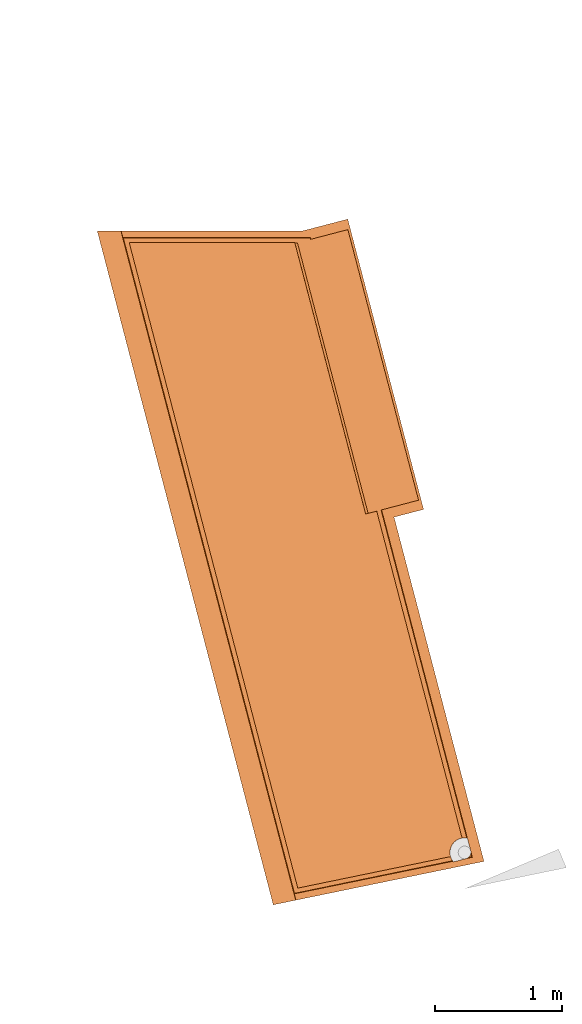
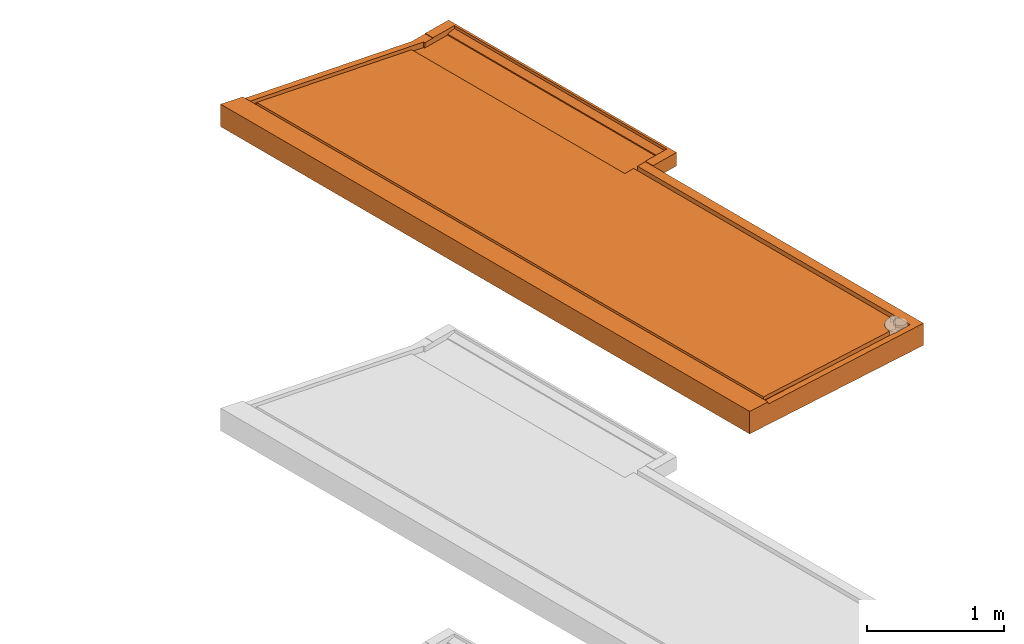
# One storey, part 21 of 31: 1 proxy, 1 element without a shape of its own.
"""IFC2X3 building model written with IfcOpenShell, lengths in centimetres."""

from ifc_helpers import new_model, entity, si_unit, converted_unit, derived_unit, direction, frame, origin, place, context, subcontext, project, spatial, faceted_brep, source, transform, mapped, material, type_object, type_shapes, element, aggregate, save


model = new_model("IFC2X3")

# Units and contexts
model_context = context("Model", 3, precision=0.001, world=origin(), true_north=direction((6.12303176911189e-17, 1.0)))
body_context = subcontext(model_context, "Body", "Model", "MODEL_VIEW")
ifc_project = project(units=[si_unit("LENGTHUNIT", "METRE", prefix="CENTI"), si_unit("AREAUNIT", "SQUARE_METRE"), si_unit("VOLUMEUNIT", "CUBIC_METRE"), converted_unit("PLANEANGLEUNIT", "DEGREE", entity("IfcRatioMeasure", 0.0174532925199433), si_unit("PLANEANGLEUNIT", "RADIAN"), dimensions=[0, 0, 0, 0, 0, 0, 0]), si_unit("MASSUNIT", "GRAM", prefix="KILO"), derived_unit("MASSDENSITYUNIT", [(si_unit("MASSUNIT", "GRAM", prefix="KILO"), 1), (si_unit("LENGTHUNIT", "METRE"), -3)]), si_unit("TIMEUNIT", "SECOND"), si_unit("FREQUENCYUNIT", "HERTZ"), si_unit("THERMODYNAMICTEMPERATUREUNIT", "DEGREE_CELSIUS"), derived_unit("THERMALTRANSMITTANCEUNIT", [(si_unit("MASSUNIT", "GRAM", prefix="KILO"), 1), (si_unit("THERMODYNAMICTEMPERATUREUNIT", "KELVIN"), -1), (si_unit("TIMEUNIT", "SECOND"), -3)]), derived_unit("VOLUMETRICFLOWRATEUNIT", [(si_unit("LENGTHUNIT", "METRE"), 3), (si_unit("TIMEUNIT", "SECOND"), -1)]), si_unit("ELECTRICCURRENTUNIT", "AMPERE"), si_unit("ELECTRICVOLTAGEUNIT", "VOLT"), si_unit("POWERUNIT", "WATT"), si_unit("FORCEUNIT", "NEWTON"), si_unit("ILLUMINANCEUNIT", "LUX"), si_unit("LUMINOUSFLUXUNIT", "LUMEN"), si_unit("LUMINOUSINTENSITYUNIT", "CANDELA"), derived_unit("USERDEFINED", [(si_unit("MASSUNIT", "GRAM", prefix="KILO"), -1), (si_unit("LENGTHUNIT", "METRE"), -2), (si_unit("TIMEUNIT", "SECOND"), 3), (si_unit("LUMINOUSFLUXUNIT", "LUMEN"), 1)]), derived_unit("LINEARVELOCITYUNIT", [(si_unit("LENGTHUNIT", "METRE"), 1), (si_unit("TIMEUNIT", "SECOND"), -1)]), si_unit("PRESSUREUNIT", "PASCAL"), derived_unit("USERDEFINED", [(si_unit("LENGTHUNIT", "METRE"), -2), (si_unit("MASSUNIT", "GRAM", prefix="KILO"), 1), (si_unit("TIMEUNIT", "SECOND"), -2)])], contexts=[model_context])

# Site, building, storey
site_placement = place(None, origin())
site = spatial("IfcSite", under=ifc_project, at=site_placement, Name="Default", CompositionType="ELEMENT")
building_placement = place(site_placement, origin())
building = spatial("IfcBuilding", under=site, at=building_placement, Name="CAGE 03", CompositionType="ELEMENT")
storey_placement = place(building_placement, frame((0.0, 0.0, -400.0)))
storey = spatial("IfcBuildingStorey", under=building, at=storey_placement, Name="±0.00", CompositionType="ELEMENT", Elevation=-400.0)

# Assembly, proxy
assembly_placement = place(storey_placement, origin())
assembly = element("IfcElementAssembly", 1, at=assembly_placement, inside=storey, Name="Assemblage Modèles génériques:BALCON TYPE 08", ObjectType="Assemblage Modèles génériques:BALCON TYPE 08", AssemblyPlace="NOTDEFINED", PredefinedType="USERDEFINED")
ifc_material = material(Name="Béton, panneaux préfa 30/37")
building_element_proxy_type = type_object("IfcBuildingElementProxyType", Name="balcon préfa type 08", PredefinedType="NOTDEFINED", material=ifc_material)
shared_shape = source(origin(), body_context, "Body", "Brep", [
    faceted_brep([(20.4758153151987, 524.485602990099, 15.0), (155.098310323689, 8.99505016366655, 15.0), (279.438582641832, 34.622077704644, 15.0), (278.506028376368, 36.2117170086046, 15.0), (277.839385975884, 37.9299132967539, 15.0), (157.690873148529, 13.1668241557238, 15.0), (25.0882306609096, 520.923046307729, 15.0), (155.314060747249, 520.923046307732, 15.0), (155.482713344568, 520.277249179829, 15.0), (157.417813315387, 520.78260855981, 15.0), (213.007345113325, 307.921611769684, 15.0), (219.780195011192, 309.690369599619, 15.0), (286.93227961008, 52.5545528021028, 15.0), (288.768321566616, 52.7168337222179, 15.0), (290.606706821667, 52.5836991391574, 15.0), (223.22714667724, 310.590555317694, 15.0), (245.904044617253, 316.512721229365, 15.0), (190.314512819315, 529.373718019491, 15.0), (167.637614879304, 523.45155210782, 15.0), (167.367568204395, 524.485602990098, 15.0), (293.790835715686, 40.3911724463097, 15.0), (293.414285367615, 39.1546032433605, 15.0), (292.733315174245, 38.0558889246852, 15.0), (291.793438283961, 37.1684628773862, 15.0), (294.487454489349, 37.7237103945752, 15.0), (155.508647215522, 520.284021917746, 16.9000788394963), (155.484457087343, 520.277704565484, 19.3999538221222), (211.073988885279, 307.416707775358, 19.3999538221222), (211.09817901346, 307.42302512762, 16.9000788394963), (245.904044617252, 316.512721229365, 15.9713250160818), (223.610570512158, 310.690688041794, 19.5295380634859), (229.455694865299, 312.217166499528, 19.589956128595), (231.390794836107, 312.722525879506, 19.6099582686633), (231.390794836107, 312.722525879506, 20.0), (252.676894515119, 318.2814790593, 20.0), (252.676894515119, 318.2814790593, 17.4999999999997), (219.78019501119, 309.690369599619, 19.4899454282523), (213.007345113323, 307.921611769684, 16.9198129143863), (197.087362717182, 531.142475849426, 17.4999999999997), (197.087362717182, 531.142475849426, 20.0), (175.801263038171, 525.583522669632, 20.0), (175.801263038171, 525.583522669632, 19.6099582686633), (173.866163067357, 525.078163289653, 19.5899561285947), (168.021038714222, 523.551684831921, 19.5295380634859), (190.314512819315, 529.373718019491, 15.9713250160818), (157.690873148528, 13.1668241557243, 18.1398009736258), (277.83938597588, 37.9299132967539, 19.3650002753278), (291.500713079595, 36.9717037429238, 16.5272701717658), (291.194845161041, 36.7960705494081, 17.7877166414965), (290.877356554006, 36.642437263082, 18.7750673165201), (290.549827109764, 36.5115683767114, 19.4844090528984), (294.976378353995, 37.4198670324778, 19.5295380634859), (154.900847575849, 8.67730667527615, 18.1014578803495), (279.68578450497, 34.2823396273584, 19.3736493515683), (279.560631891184, 34.4510796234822, 17.1958838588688), (3.88407743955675, 526.923046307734, 0.0), (3.88407743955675, 526.923046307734, 1.0), (140.574776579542, 3.51301694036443, 1.0), (140.574776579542, 3.51301694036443, 0.0), (5.1787699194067, 525.923046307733, 1.46630765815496), (141.302501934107, 4.68402258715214, 1.46630765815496), (157.417813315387, 520.78260855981, 16.9198129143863), (20.1245103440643, 524.756945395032, 18.1014578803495), (18.7753616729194, 529.923046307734, 18.1014578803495), (18.6036900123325, 529.923046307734, 20.0), (156.045092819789, 3.63845538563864, 20.0), (156.207996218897, 3.67203042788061, 18.1014578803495), (5.1787699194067, 525.923046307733, 0.0), (141.302501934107, 4.68402258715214, 0.0), (0.0, 529.923046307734, 20.0), (0.0, 529.923046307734, 0.0), (138.391600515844, 0.0, 0.0), (138.391600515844, 0.0, 20.0), (286.932279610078, 52.5545528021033, 19.4899454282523), (173.779825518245, 533.32392255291, 20.0), (174.406824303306, 530.923046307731, 20.0), (233.412232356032, 304.982125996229, 20.0), (248.893032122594, 309.025001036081, 20.0), (256.633432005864, 311.046438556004, 20.0), (197.001025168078, 539.388235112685, 20.0), (189.260625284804, 537.366797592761, 20.0), (197.001025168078, 539.388235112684, 8.0), (256.633432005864, 311.046438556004, 8.0), (189.260625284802, 537.36679759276, 8.0), (248.893032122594, 309.025001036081, 8.0), (233.412232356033, 304.982125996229, 8.0), (174.406824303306, 530.923046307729, 8.0), (173.779825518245, 533.32392255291, 8.0), (233.412232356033, 304.982125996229, 19.6099582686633), (304.138278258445, 34.1610533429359, 19.6099582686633), (304.138278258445, 34.1610533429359, 0.0), (303.379205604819, 37.0676610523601, 0.0), (303.379205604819, 37.0676610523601, 1.0), (303.126181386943, 38.0365302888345, 1.46630765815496), (303.126181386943, 38.0365302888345, 0.0), (174.790544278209, 529.453722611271, 0.0), (174.790544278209, 529.453722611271, 1.46630765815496), (174.537864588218, 530.421272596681, 1.0), (174.537864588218, 530.421272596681, 0.0), (174.406824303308, 530.923046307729, 0.0), (173.779825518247, 533.32392255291, 0.0), (172.602764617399, 529.915913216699, 0.0), (161.142609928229, 526.923046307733, 0.0), (301.417706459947, 36.6633882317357, 0.0), (302.176779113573, 33.7567805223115, 0.0), (160.75733937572, 529.923046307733, 0.0), (287.596140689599, 46.0549454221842, 0.0), (172.85544430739, 528.94836323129, 0.0), (288.891291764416, 46.217094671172, 0.0), (290.184278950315, 46.0385090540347, 0.0), (291.386987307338, 45.5313588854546, 0.0), (292.417454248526, 44.7302056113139, 0.0), (293.205455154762, 43.6896465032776, 0.0), (293.69728906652, 42.4805939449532, 0.0), (301.164682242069, 37.6322574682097, 0.0), (293.859438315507, 41.1854428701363, 0.0), (293.680852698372, 39.8924556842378, 0.0), (293.17370252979, 38.6897473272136, 0.0), (292.372549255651, 37.6592803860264, 0.0), (291.331990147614, 36.8712794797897, 0.0), (290.12293758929, 36.3794455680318, 0.0), (288.827786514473, 36.217296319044, 0.0), (287.534799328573, 36.3958819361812, 0.0), (286.332090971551, 36.9030321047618, 0.0), (285.301624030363, 37.704185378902, 0.0), (284.513623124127, 38.7447444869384, 0.0), (284.021789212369, 39.9537970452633, 0.0), (283.859639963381, 41.2489481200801, 0.0), (284.038225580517, 42.5419353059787, 0.0), (284.545375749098, 43.7446436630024, 0.0), (285.346529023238, 44.77511060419, 0.0), (286.387088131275, 45.5631115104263, 0.0), (161.271033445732, 525.923046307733, 0.0), (25.0882306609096, 520.923046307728, 18.1398009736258), (277.372859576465, 40.6638487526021, 19.3673947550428), (277.574432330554, 43.429968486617, 19.3763354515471), (278.432380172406, 46.0673868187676, 19.3913023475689), (279.896802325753, 48.4227037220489, 19.4114249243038), (281.882523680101, 50.3589270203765, 19.4355327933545), (284.274048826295, 51.7634402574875, 19.4622237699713), (155.314060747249, 520.923046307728, 19.3999357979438), (167.673651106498, 524.881886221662, 19.5295380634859), (174.406824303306, 530.923046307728, 19.6099582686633), (173.779825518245, 533.32392255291, 19.6099582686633), (160.75733937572, 529.923046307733, 19.4753514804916), (291.035678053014, 52.5094237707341, 19.5295380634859), (291.058092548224, 52.5050811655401, 19.5297439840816), (291.080498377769, 52.5006940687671, 19.5299497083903), (293.69728906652, 42.4805939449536, 19.5299497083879), (293.768377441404, 42.1676198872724, 19.5298466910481), (293.819240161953, 41.8507298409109, 19.5295380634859), (290.337859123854, 36.4407355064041, 19.4821789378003), (290.122937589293, 36.379445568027, 19.4799443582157), (280.102837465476, 33.7626548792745, 19.3763717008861), (279.890546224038, 34.0194759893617, 19.3749664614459), (302.176779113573, 33.7567805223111, 19.589956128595), (290.714125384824, 52.5661453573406, 16.1372598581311), (290.821543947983, 52.5485915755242, 17.2745197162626), (290.928611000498, 52.5290076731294, 18.4020288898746), (290.982144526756, 52.5192157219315, 18.9657834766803), (291.008911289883, 52.5143197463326, 19.2476607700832), (293.852306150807, 41.4860403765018, 18.8419447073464), (293.858592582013, 41.1199089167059, 17.8540276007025), (293.838065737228, 40.7542992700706, 16.5710856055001), (301.417706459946, 36.6633882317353, 1.0), (301.164682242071, 37.6322574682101, 1.46630765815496), (161.142609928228, 526.923046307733, 1.0), (161.271033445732, 525.923046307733, 1.46630765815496), (172.602764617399, 529.9159132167, 1.0), (172.85544430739, 528.94836323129, 1.46630765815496), (288.253873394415, 52.701235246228, 7.69999999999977), (285.464023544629, 52.2044824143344, 7.69999999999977), (282.880344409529, 51.0405976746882, 7.69999999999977), (280.659713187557, 49.2802503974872, 7.69999999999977), (278.936963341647, 47.030326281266, 7.69999999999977), (277.816697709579, 44.4274374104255, 7.69999999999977), (277.366937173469, 41.629627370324, 7.69999999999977), (277.614990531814, 38.8067750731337, 7.69999999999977), (278.545796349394, 36.1302799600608, 7.69999999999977), (280.102837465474, 33.7626548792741, 7.69999999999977), (290.122937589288, 36.3794455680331, 7.69999999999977), (288.827786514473, 36.2172963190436, 7.69999999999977), (287.534799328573, 36.3958819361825, 7.69999999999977), (286.332090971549, 36.9030321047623, 7.69999999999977), (285.301624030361, 37.7041853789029, 7.69999999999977), (284.513623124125, 38.7447444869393, 7.69999999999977), (284.021789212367, 39.9537970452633, 7.69999999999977), (283.859639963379, 41.2489481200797, 7.69999999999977), (284.038225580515, 42.5419353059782, 7.69999999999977), (284.545375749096, 43.744643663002, 7.69999999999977), (285.346529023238, 44.7751106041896, 7.69999999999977), (286.387088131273, 45.5631115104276, 7.69999999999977), (287.596140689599, 46.0549454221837, 7.69999999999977), (288.891291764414, 46.2170946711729, 7.69999999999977), (290.184278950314, 46.0385090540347, 7.69999999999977), (291.386987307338, 45.5313588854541, 7.69999999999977), (292.417454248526, 44.7302056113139, 7.69999999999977), (293.20545515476, 43.6896465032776, 7.69999999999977), (293.69728906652, 42.4805939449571, 7.69999999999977), (291.080498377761, 52.5006940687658, 7.69999999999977), (291.080498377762, 52.5006940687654, 19.1602585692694), (291.080498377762, 52.5006940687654, 18.7905743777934), (291.080498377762, 52.5006940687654, 18.0512059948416), (291.080498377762, 52.5006940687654, 16.5724622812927), (291.080498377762, 52.5006940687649, 15.093718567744), (291.080498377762, 52.5006940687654, 13.614974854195), (280.102837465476, 33.7626548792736, 16.4572787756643), (280.102837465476, 33.7626548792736, 13.5381858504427)], [[[0, 1, 2, 3, 4, 5, 6, 7, 8, 9, 10, 11, 12, 13, 14, 15, 16, 17, 18, 19]], [[20, 21, 22, 23, 24]], [[25, 26, 27, 28]], [[29, 16, 15, 30, 31, 32, 33, 34, 35]], [[36, 11, 10, 37, 28, 27]], [[38, 39, 40, 41, 42, 43, 18, 17, 44]], [[45, 5, 4, 46]], [[23, 47, 48, 49, 50, 51, 24]], [[1, 52, 53, 54, 2]], [[55, 56, 57, 58]], [[59, 60, 57, 56]], [[9, 61, 37, 10]], [[52, 1, 0, 62, 63, 64, 65, 66]], [[59, 67, 68, 60]], [[69, 70, 71, 72]], [[73, 12, 11, 36]], [[38, 44, 29, 35]], [[44, 17, 16, 29]], [[39, 38, 35, 34]], [[74, 75, 40, 39, 34, 33, 76, 77, 78, 79, 80]], [[72, 65, 64, 69]], [[81, 79, 78, 82]], [[83, 81, 82, 84, 85, 86, 87]], [[87, 86, 85, 88, 89, 90, 91, 92, 93, 94, 95, 96, 97, 98, 99, 100]], [[101, 102, 55, 58, 103, 91, 90, 104, 71, 70, 105, 100, 99, 98]], [[101, 100, 99]], [[101, 99, 98]], [[101, 105, 100]], [[102, 105, 101]], [[55, 105, 102]], [[55, 70, 105]], [[70, 55, 71]], [[58, 71, 55]], [[58, 104, 71]], [[104, 58, 103]], [[91, 104, 103]], [[91, 90, 104]], [[95, 106, 107]], [[106, 95, 108]], [[109, 108, 95]], [[110, 109, 95]], [[110, 95, 94]], [[94, 111, 110]], [[112, 111, 94]], [[113, 112, 94]], [[114, 113, 94]], [[115, 113, 114]], [[115, 114, 116]], [[114, 117, 116]], [[118, 117, 114]], [[114, 119, 118]], [[120, 119, 114]], [[120, 114, 121]], [[114, 68, 121]], [[122, 121, 68]], [[123, 122, 68]], [[124, 123, 68]], [[124, 68, 125]], [[126, 125, 68]], [[68, 127, 126]], [[127, 68, 128]], [[129, 128, 68]], [[129, 68, 130]], [[130, 68, 131]], [[68, 132, 131]], [[132, 68, 67]], [[107, 106, 132]], [[131, 132, 106]], [[133, 45, 46, 134, 135, 136, 137, 138, 139, 73, 36, 27, 26, 140]], [[63, 62, 141, 43, 42, 41, 142, 143, 144]], [[88, 32, 31, 30, 145, 146, 147, 148, 149, 150, 51, 50, 151, 152, 153, 154, 53, 52, 66, 155, 89]], [[61, 25, 28, 37]], [[133, 6, 5, 45]], [[14, 156, 157, 158, 159, 160, 145, 30, 15]], [[43, 141, 19, 18]], [[51, 150, 161, 162, 163, 20, 24]], [[69, 64, 63, 144, 105, 70]], [[90, 89, 155, 66, 65, 72, 71, 104]], [[76, 33, 32, 88]], [[75, 74, 143, 142, 41, 40]], [[80, 79, 81, 83, 87, 100, 105, 144, 143, 74]], [[91, 103, 58, 57, 164, 92]], [[165, 60, 68, 114, 94, 93]], [[164, 57, 60, 165, 93, 92]], [[102, 166, 56, 55]], [[167, 132, 67, 59]], [[166, 167, 59, 56]], [[168, 166, 102, 101, 98, 97]], [[107, 132, 167, 169, 96, 95]], [[166, 168, 97, 96, 169, 167]], [[7, 6, 133, 140]], [[141, 62, 0, 19]], [[8, 140, 26]], [[140, 8, 7]], [[9, 8, 26, 25, 61]], [[77, 76, 88, 85, 84, 82, 78]], [[170, 171, 172, 173, 174, 175, 176, 177, 178, 179, 180, 181, 182, 183, 184, 185, 186, 187, 188, 189, 190, 191, 192, 193, 194, 195, 196, 197, 198, 199]], [[148, 147, 200, 201, 202, 203, 204, 205, 199, 198]], [[13, 170, 199]], [[146, 145, 160]], [[13, 205, 14]], [[13, 12, 170]], [[156, 203, 157]], [[172, 171, 139]], [[171, 12, 139]], [[170, 12, 171]], [[138, 173, 172]], [[201, 200, 159]], [[201, 158, 202]], [[205, 13, 199]], [[138, 172, 139]], [[139, 12, 73]], [[138, 137, 173]], [[160, 159, 200]], [[137, 174, 173]], [[175, 135, 176]], [[174, 136, 175]], [[177, 176, 134]], [[2, 178, 3]], [[203, 202, 157]], [[178, 4, 3]], [[2, 179, 178]], [[177, 4, 178]], [[134, 4, 177]], [[14, 204, 156]], [[46, 4, 134]], [[160, 200, 146]], [[135, 175, 136]], [[54, 206, 2]], [[134, 176, 135]], [[207, 179, 2, 206]], [[158, 157, 202]], [[54, 53, 154]], [[206, 54, 154]], [[203, 156, 204]], [[206, 154, 153]], [[147, 146, 200]], [[14, 205, 204]], [[159, 158, 201]], [[137, 136, 174]], [[180, 179, 207, 206, 153, 152]], [[111, 112, 197, 196]], [[111, 196, 195, 110]], [[108, 109, 194, 193]], [[195, 194, 109, 110]], [[106, 108, 193, 192]], [[113, 198, 197, 112]], [[130, 131, 191, 190]], [[130, 190, 189, 129]], [[127, 128, 188, 187]], [[189, 188, 128, 129]], [[126, 127, 187, 186]], [[192, 191, 131, 106]], [[125, 185, 184, 124]], [[126, 186, 185, 125]], [[121, 122, 182, 181]], [[123, 124, 184, 183]], [[123, 183, 182, 122]], [[181, 180, 120, 121]], [[50, 49, 180]], [[180, 49, 48]], [[152, 151, 180]], [[50, 180, 151]], [[119, 120, 180]], [[23, 118, 119]], [[118, 23, 22]], [[22, 117, 118]], [[47, 23, 119]], [[198, 113, 115]], [[116, 117, 21]], [[116, 20, 115]], [[22, 21, 117]], [[115, 161, 198]], [[116, 21, 20]], [[119, 48, 47]], [[20, 163, 115]], [[161, 115, 162]], [[161, 150, 198]], [[162, 115, 163]], [[150, 149, 198]], [[198, 149, 148]], [[180, 48, 119]]]),
])
type_shapes(building_element_proxy_type, [shared_shape])
proxy_placement = place(assembly_placement, frame((10497.2854867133, 3265.73761976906, 1800.0)))
proxy = element("IfcBuildingElementProxy", 2, at=proxy_placement, type_object=building_element_proxy_type, material=ifc_material, Name="BY_STR_Balcon_préfa_08:balcon préfa type 08", ObjectType="balcon préfa type 08", context=body_context, shape_type="MappedRepresentation", body=[
    mapped(shared_shape, transform((0.0, 0.0, 0.0), scale=1.0)),
])
aggregate(assembly, [proxy])

save(model, "model.ifc")
